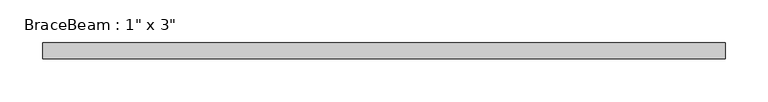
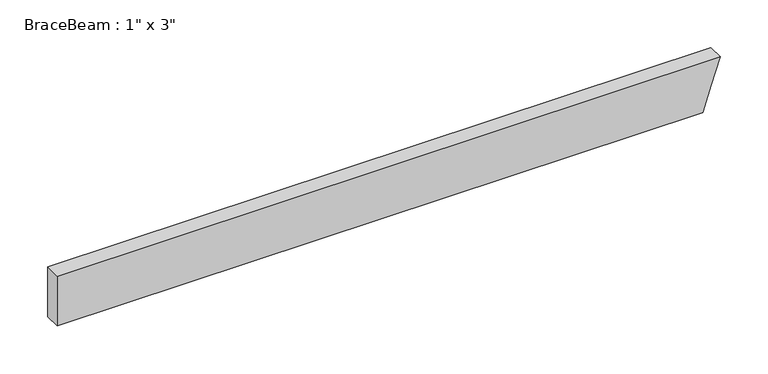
"""IFC4 building model written with IfcOpenShell, lengths in millimetres: beam geometry."""

from ifc_helpers import new_model, si_unit, origin, place, context, project, spatial, faceted_brep, source, transform, mapped, element, save


def beam_5e3254dc(model_context):
    return source(origin(), model_context, "Body", "Brep", [
        faceted_brep([(-395.1176112, -9.525, -31.75), (-395.1176112, 9.525, -31.75), (383.1063943, 9.525, -31.75), (383.1063943, -9.525, -31.75), (-395.1176112, 9.525, 31.75), (403.8320887, 9.525, 31.75), (393.4692415, 9.525, 0.0), (-395.1176112, -9.525, 31.75), (403.8320887, -9.525, 31.75), (393.4692415, -9.525, 0.0)], [[[0, 1, 2, 3]], [[1, 4, 5, 6, 2]], [[4, 7, 8, 5]], [[7, 0, 3, 9, 8]], [[7, 4, 1, 0]], [[5, 8, 9, 3, 2, 6]]]),
    ])


if __name__ == "__main__":
    model = new_model("IFC4")
    model_context = context("Model", 3, world=origin())
    ifc_project = project(units=[si_unit("LENGTHUNIT", "METRE", prefix="MILLI")], contexts=[model_context])
    site = spatial("IfcSite", under=ifc_project)
    building = spatial("IfcBuilding", under=site)
    placement = place(None, origin())
    beam_shape = beam_5e3254dc(model_context)
    element("IfcBeam", 1, ObjectType="BraceBeam : 1\" x 3\"", at=placement, inside=building, context=model_context, shape_type="MappedRepresentation", body=[
        mapped(beam_shape, transform((0.0, 0.0, 0.0), x_axis=(1.0, 0.0, 0.0), y_axis=(0.0, 1.0, 0.0), z_axis=(0.0, 0.0, 1.0))),
    ])
    save(model, "model.ifc")
